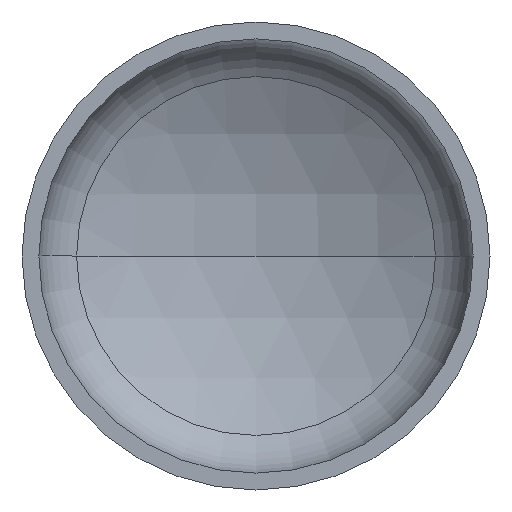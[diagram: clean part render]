
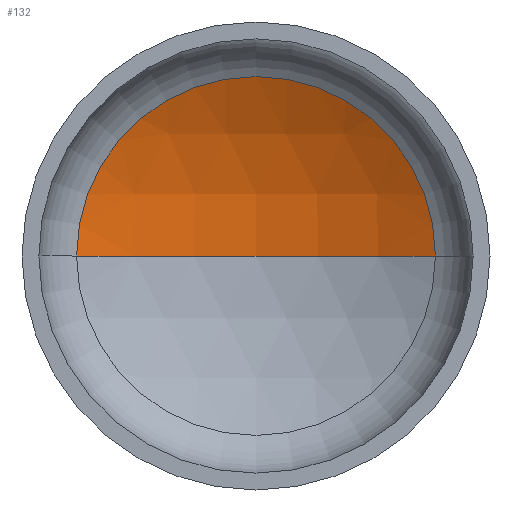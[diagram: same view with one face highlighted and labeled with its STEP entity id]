
A CAD part, front view. The second image highlights one B-rep face of the part: STEP entity #132.
In plain terms, the highlighted spherical face has radius 800 mm.
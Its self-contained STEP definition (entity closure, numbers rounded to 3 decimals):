
#6 = ORIENTED_EDGE ( 'NONE', *, *, #353, .F. ) ;
#15 = AXIS2_PLACEMENT_3D ( 'NONE', #213, #214, #20 ) ;
#18 = EDGE_LOOP ( 'NONE', ( #6, #53, #25 ) ) ;
#19 = AXIS2_PLACEMENT_3D ( 'NONE', #262, #49, #384 ) ;
#20 = DIRECTION ( 'NONE',  ( 1., 0., 0. ) ) ;
#23 = VERTEX_POINT ( 'NONE', #358 ) ;
#25 = ORIENTED_EDGE ( 'NONE', *, *, #357, .T. ) ;
#26 = AXIS2_PLACEMENT_3D ( 'NONE', #136, #137, #138 ) ;
#49 = DIRECTION ( 'NONE',  ( 0., 0., 1. ) ) ;
#53 = ORIENTED_EDGE ( 'NONE', *, *, #338, .T. ) ;
#55 = VERTEX_POINT ( 'NONE', #248 ) ;
#58 = AXIS2_PLACEMENT_3D ( 'NONE', #206, #346, #208 ) ;
#121 = FACE_OUTER_BOUND ( 'NONE', #18, .T. ) ;
#132 = ADVANCED_FACE ( 'NONE', ( #121 ), #383, .F. ) ;
#136 = CARTESIAN_POINT ( 'NONE',  ( 0., -456.166, 0. ) ) ;
#137 = DIRECTION ( 'NONE',  ( 0., 0., -1. ) ) ;
#138 = DIRECTION ( 'NONE',  ( -1., 0., 0. ) ) ;
#144 = CARTESIAN_POINT ( 'NONE',  ( 383.256, 246.055, 0. ) ) ;
#156 = CIRCLE ( 'NONE', #26, 800. ) ;
#206 = CARTESIAN_POINT ( 'NONE',  ( 0., -456.166, 0. ) ) ;
#208 = DIRECTION ( 'NONE',  ( -1., 0., 0. ) ) ;
#213 = CARTESIAN_POINT ( 'NONE',  ( 0., 246.055, 0. ) ) ;
#214 = DIRECTION ( 'NONE',  ( 0., -1., 0. ) ) ;
#224 = CIRCLE ( 'NONE', #19, 800. ) ;
#248 = CARTESIAN_POINT ( 'NONE',  ( 0., 343.834, 0. ) ) ;
#262 = CARTESIAN_POINT ( 'NONE',  ( 0., -456.166, 0. ) ) ;
#274 = CIRCLE ( 'NONE', #15, 383.256 ) ;
#338 = EDGE_CURVE ( 'NONE', #55, #401, #156, .T. ) ;
#346 = DIRECTION ( 'NONE',  ( 0., 0., -1. ) ) ;
#353 = EDGE_CURVE ( 'NONE', #55, #23, #224, .T. ) ;
#357 = EDGE_CURVE ( 'NONE', #401, #23, #274, .T. ) ;
#358 = CARTESIAN_POINT ( 'NONE',  ( -383.256, 246.055, 0. ) ) ;
#383 = SPHERICAL_SURFACE ( 'NONE', #58, 800. ) ;
#384 = DIRECTION ( 'NONE',  ( 1., 0., 0. ) ) ;
#401 = VERTEX_POINT ( 'NONE', #144 ) ;
